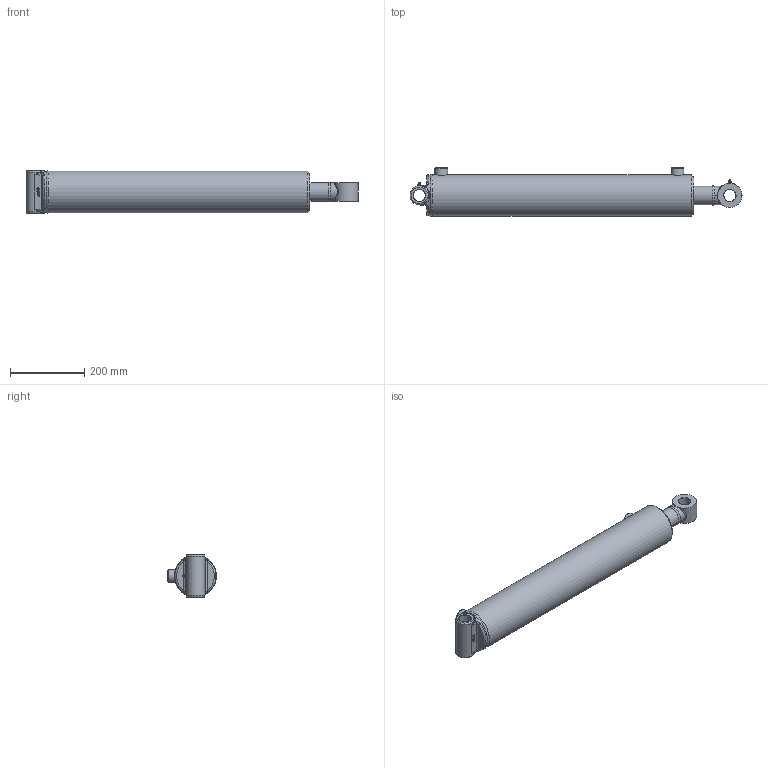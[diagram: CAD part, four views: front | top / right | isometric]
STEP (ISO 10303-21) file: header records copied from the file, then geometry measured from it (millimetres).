
FILE_DESCRIPTION(/* description */ ('Ø4.00 X 24.00 DA'),/* implementation_level */ '2;1');
FILE_NAME(/* name */ 'D:\Temp\1EC677A6E30A904\usxywvfn.13b\Temp\1apwdcc0..stp',/* time_stamp */ '2020-09-18T15:55:57+00:00',/* author */ (''),/* organization */ ('PRINCE MANUFACTURING'),/* preprocessor_version */ 'ST-DEVELOPER v18.1',/* originating_system */ 'Autodesk Inventor 2021',/* authorisation */ '');
FILE_SCHEMA (('AUTOMOTIVE_DESIGN { 1 0 10303 214 3 1 1 }'));
Length unit declared in the file: inch
Products named in the file (21): PC4024020A00-330XTXS; 0619-XTSG00-240; 0519-T-27620; 161900225; 200015706; 06Weld1_C360; 0719-P-125; 220000212; 0819-G-200; 230025106; 230025006; 240000026; 240061342; 240000342; 0211-AXS40-330X; 0111A-JAW4-29937; 210600511; 02Weld_C360; 240020009; 250014200; 270010020
Assembly tree (22 placements, depth 3):
  PC4024020A00-330XTXS
    0619-XTSG00-240
      0519-T-27620
      161900225
      200015706  x2
      06Weld1_C360
    0719-P-125
    220000212
    0819-G-200
    230025106
    230025006
    240000026
    240061342
    240000342
    0211-AXS40-330X
      0111A-JAW4-29937
      210600511
      02Weld_C360
    240020009
    250014200
    270010020  x2
Bounding box: 896.27 x 132.19 x 114.3 mm (x, y, z)
Volume: 3731954.8 mm3; surface area: 823343.9 mm2
Topology: 26 solids, 26 shells, 499 faces, 1415 edges, 978 vertices
Faces by surface type: plane 139, bspline 126, torus 90, cylinder 80, cone 62, sphere 2
Full cylindrical faces by diameter (mm): 1.524 x2, 5.359 x2, 6.35 x2, 12.7 x2, 20.269 x2, 29.464 x1, 31.699 x1, 31.826 x1, 32.131 x2, 34.315 x1, 34.925 x2, 35.052 x2, 50.8 x1, 50.876 x2, 51.994 x2, 52.832 x1, 53.188 x1, 57.963 x1, 59.157 x1, 60.35 x1, 61.976 x2, 63.5 x2, 73.152 x1, 82.55 x1, 92.177 x2, 92.913 x2, 96.52 x1, 98.031 x2, 98.273 x4, 100.986 x2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
Entity records: 32916 total; most frequent: CARTESIAN_POINT 19556, ORIENTED_EDGE 2656, DIRECTION 2459, EDGE_CURVE 1328, AXIS2_PLACEMENT_3D 1059, VERTEX_POINT 925, CIRCLE 657, EDGE_LOOP 539
